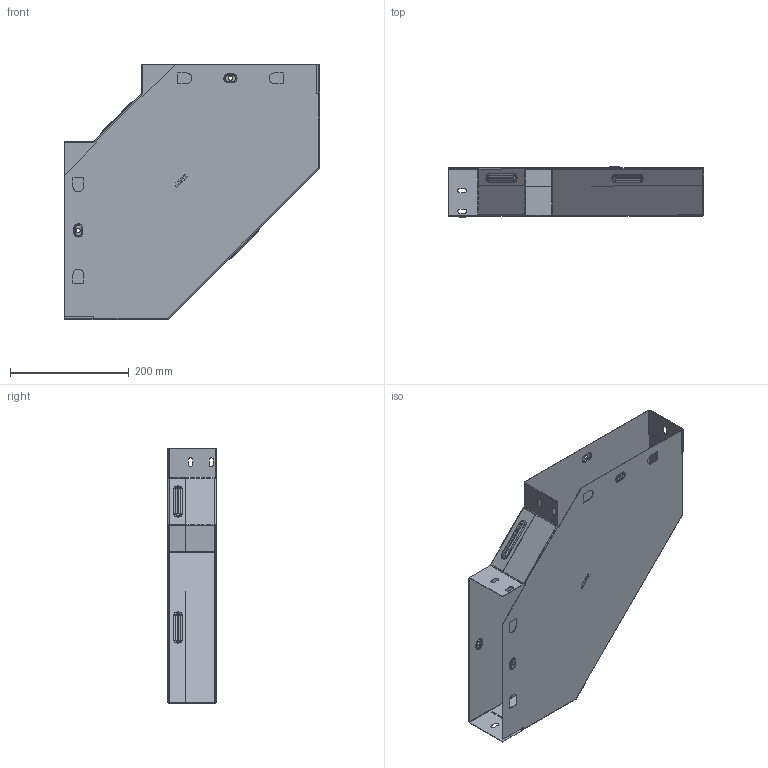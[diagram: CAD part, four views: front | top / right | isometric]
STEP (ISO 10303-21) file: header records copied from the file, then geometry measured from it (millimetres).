
FILE_DESCRIPTION (( 'STEP AP214' ), '1' );
FILE_NAME ('g9080300_捘.STEP', '2019-06-10T09:52:50', ( '砐錪賧瘔蠈錪 Windows' ), ( '' ), 'SwSTEP 2.0', 'SolidWorks 2018', '' );
FILE_SCHEMA (( 'AUTOMOTIVE_DESIGN' ));
Length unit declared in the file: millimetre
Products named in the file (1): g9080300_捘
Bounding box: 430.8 x 83.8 x 430.8 mm (x, y, z)
Volume: 290597.2 mm3; surface area: 730894 mm2
Topology: 2 solids, 2 shells, 581 faces, 1611 edges, 1042 vertices
Faces by surface type: plane 340, cylinder 151, torus 64, bspline 26
Entity records: 19876 total; most frequent: CARTESIAN_POINT 4711, ORIENTED_EDGE 3222, DIRECTION 3041, EDGE_CURVE 1611, LINE 1165, VECTOR 1165, VERTEX_POINT 1042, AXIS2_PLACEMENT_3D 938
